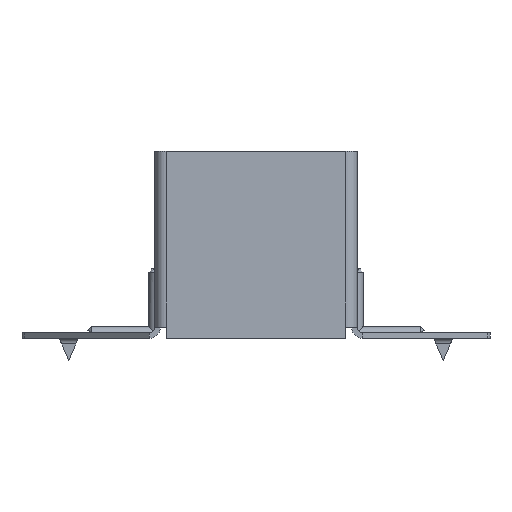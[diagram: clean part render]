
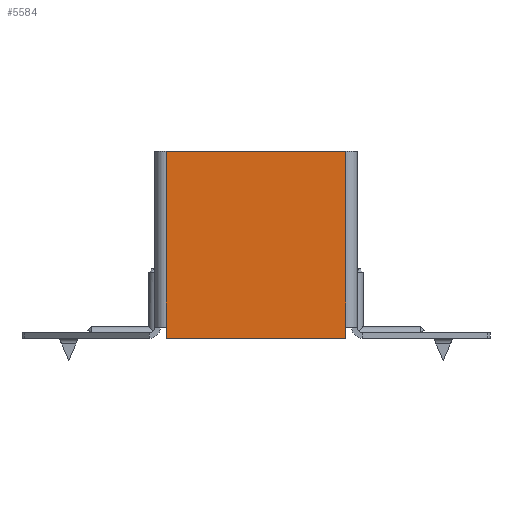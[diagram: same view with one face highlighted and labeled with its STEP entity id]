
A CAD part, front view. The second image highlights one B-rep face of the part: STEP entity #5584.
In plain terms, the highlighted planar face has unit normal (0, -1, 0).
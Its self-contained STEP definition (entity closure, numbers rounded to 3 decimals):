
#192 = VERTEX_POINT ( 'NONE', #11528 ) ;
#967 = VERTEX_POINT ( 'NONE', #3998 ) ;
#2244 = CARTESIAN_POINT ( 'NONE',  ( -24., 0., 0. ) ) ;
#2246 = CARTESIAN_POINT ( 'NONE',  ( 0., 0., -20. ) ) ;
#2872 = CARTESIAN_POINT ( 'NONE',  ( -24., 0., -20. ) ) ;
#3261 = EDGE_CURVE ( 'NONE', #967, #5468, #8093, .T. ) ;
#3295 = VECTOR ( 'NONE', #7966, 1000. ) ;
#3369 = CARTESIAN_POINT ( 'NONE',  ( -24., 0., -67. ) ) ;
#3449 = CARTESIAN_POINT ( 'NONE',  ( 24., 0., -70. ) ) ;
#3729 = VECTOR ( 'NONE', #13364, 1000. ) ;
#3941 = CARTESIAN_POINT ( 'NONE',  ( -24., 0., -70. ) ) ;
#3970 = AXIS2_PLACEMENT_3D ( 'NONE', #14115, #4313, #11554 ) ;
#3983 = CARTESIAN_POINT ( 'NONE',  ( -24., 0., 0. ) ) ;
#3998 = CARTESIAN_POINT ( 'NONE',  ( 24., 0., -70. ) ) ;
#4313 = DIRECTION ( 'NONE',  ( 0., 1., 0. ) ) ;
#4765 = EDGE_CURVE ( 'NONE', #7279, #13435, #14359, .T. ) ;
#5468 = VERTEX_POINT ( 'NONE', #3941 ) ;
#5584 = ADVANCED_FACE ( 'NONE', ( #14175 ), #10526, .F. ) ;
#5901 = ORIENTED_EDGE ( 'NONE', *, *, #15231, .T. ) ;
#6734 = DIRECTION ( 'NONE',  ( 0., 0., 1. ) ) ;
#7279 = VERTEX_POINT ( 'NONE', #2872 ) ;
#7294 = VERTEX_POINT ( 'NONE', #15281 ) ;
#7762 = CARTESIAN_POINT ( 'NONE',  ( -25.5, 0., -70. ) ) ;
#7966 = DIRECTION ( 'NONE',  ( -1., 0., 0. ) ) ;
#8062 = ORIENTED_EDGE ( 'NONE', *, *, #8589, .T. ) ;
#8093 = LINE ( 'NONE', #7762, #3295 ) ;
#8227 = VECTOR ( 'NONE', #6734, 1000. ) ;
#8553 = VECTOR ( 'NONE', #10799, 1000. ) ;
#8589 = EDGE_CURVE ( 'NONE', #192, #7294, #9870, .T. ) ;
#8995 = VECTOR ( 'NONE', #10697, 1000. ) ;
#9371 = VECTOR ( 'NONE', #13583, 1000. ) ;
#9528 = ORIENTED_EDGE ( 'NONE', *, *, #4765, .T. ) ;
#9782 = ORIENTED_EDGE ( 'NONE', *, *, #3261, .F. ) ;
#9793 = ORIENTED_EDGE ( 'NONE', *, *, #10002, .T. ) ;
#9870 = LINE ( 'NONE', #3449, #3729 ) ;
#9941 = ORIENTED_EDGE ( 'NONE', *, *, #13967, .T. ) ;
#10002 = EDGE_CURVE ( 'NONE', #13435, #5468, #14298, .T. ) ;
#10378 = EDGE_LOOP ( 'NONE', ( #5901, #9528, #9793, #9782, #9941, #8062 ) ) ;
#10526 = PLANE ( 'NONE',  #3970 ) ;
#10697 = DIRECTION ( 'NONE',  ( -1., 0., 0. ) ) ;
#10799 = DIRECTION ( 'NONE',  ( 0., 0., -1. ) ) ;
#11528 = CARTESIAN_POINT ( 'NONE',  ( 24., 0., -67. ) ) ;
#11554 = DIRECTION ( 'NONE',  ( 0., 0., 1. ) ) ;
#11608 = CARTESIAN_POINT ( 'NONE',  ( 24., 0., -70. ) ) ;
#12826 = LINE ( 'NONE', #11608, #8227 ) ;
#13364 = DIRECTION ( 'NONE',  ( 0., 0., 1. ) ) ;
#13412 = LINE ( 'NONE', #2246, #8995 ) ;
#13435 = VERTEX_POINT ( 'NONE', #3369 ) ;
#13583 = DIRECTION ( 'NONE',  ( 0., 0., -1. ) ) ;
#13967 = EDGE_CURVE ( 'NONE', #967, #192, #12826, .T. ) ;
#14115 = CARTESIAN_POINT ( 'NONE',  ( 0., 0., 0. ) ) ;
#14175 = FACE_OUTER_BOUND ( 'NONE', #10378, .T. ) ;
#14298 = LINE ( 'NONE', #2244, #8553 ) ;
#14359 = LINE ( 'NONE', #3983, #9371 ) ;
#15231 = EDGE_CURVE ( 'NONE', #7294, #7279, #13412, .T. ) ;
#15281 = CARTESIAN_POINT ( 'NONE',  ( 24., 0., -20. ) ) ;
